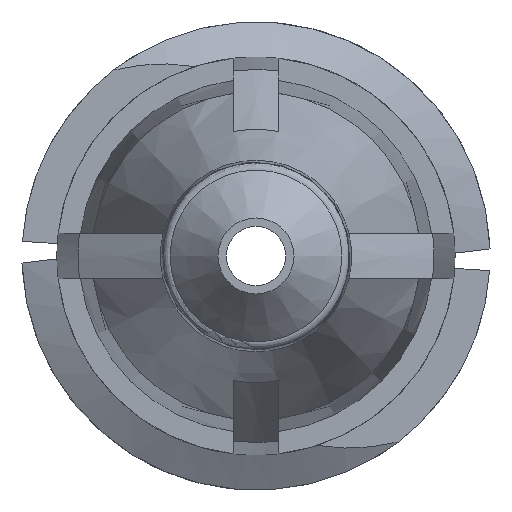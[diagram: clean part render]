
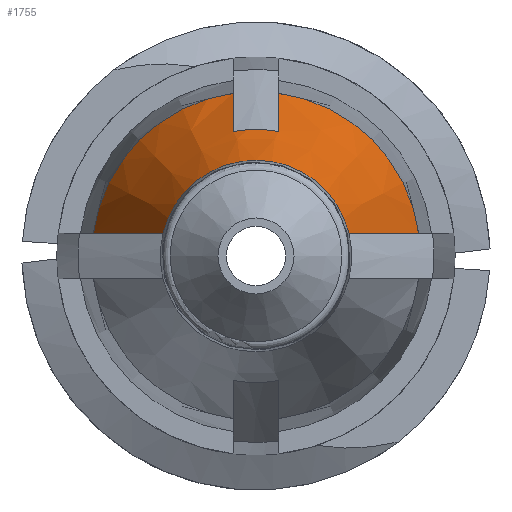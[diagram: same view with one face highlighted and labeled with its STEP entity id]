
A CAD part, front view. The second image highlights one B-rep face of the part: STEP entity #1755.
In plain terms, the highlighted conical face has half-angle 20 degrees and reference radius 2.745 mm.
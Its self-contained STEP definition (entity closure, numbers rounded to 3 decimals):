
#7 = ORIENTED_EDGE ( 'NONE', *, *, #854, .T. ) ;
#64 = DIRECTION ( 'NONE',  ( 0., 1., 0. ) ) ;
#65 = CARTESIAN_POINT ( 'NONE',  ( 1.554, -13.458, 0.381 ) ) ;
#76 = CARTESIAN_POINT ( 'NONE',  ( -1.947, -12.411, 0.381 ) ) ;
#136 = ORIENTED_EDGE ( 'NONE', *, *, #1142, .T. ) ;
#188 = CARTESIAN_POINT ( 'NONE',  ( 0., -10.312, 0. ) ) ;
#201 = CARTESIAN_POINT ( 'NONE',  ( 0., -10.312, 0. ) ) ;
#216 = ORIENTED_EDGE ( 'NONE', *, *, #1886, .T. ) ;
#258 = CARTESIAN_POINT ( 'NONE',  ( -0.381, -10.888, 2.507 ) ) ;
#266 = CARTESIAN_POINT ( 'NONE',  ( -1.554, -13.458, 0.381 ) ) ;
#281 = CARTESIAN_POINT ( 'NONE',  ( 0., -12.038, 0. ) ) ;
#282 = ORIENTED_EDGE ( 'NONE', *, *, #1956, .T. ) ;
#347 = B_SPLINE_CURVE_WITH_KNOTS ( 'NONE', 3,
 ( #1463, #1151, #662, #1635 ),
 .UNSPECIFIED., .F., .F.,
 ( 4, 4 ),
 ( 0.003, 0.007 ),
 .UNSPECIFIED. ) ;
#372 = DIRECTION ( 'NONE',  ( 1., 0., 0. ) ) ;
#383 = FACE_OUTER_BOUND ( 'NONE', #454, .T. ) ;
#408 = VERTEX_POINT ( 'NONE', #429 ) ;
#429 = CARTESIAN_POINT ( 'NONE',  ( -0.381, -12.038, 2.082 ) ) ;
#431 = CARTESIAN_POINT ( 'NONE',  ( -1.554, -13.458, 0.381 ) ) ;
#454 = EDGE_LOOP ( 'NONE', ( #1154, #1851, #726, #136, #282, #1520, #216, #7 ) ) ;
#459 = AXIS2_PLACEMENT_3D ( 'NONE', #1582, #607, #1611 ) ;
#470 = CIRCLE ( 'NONE', #1689, 2.745 ) ;
#545 = AXIS2_PLACEMENT_3D ( 'NONE', #281, #596, #1080 ) ;
#590 = CARTESIAN_POINT ( 'NONE',  ( -0.381, -10.312, 2.719 ) ) ;
#596 = DIRECTION ( 'NONE',  ( 0., -1., 0. ) ) ;
#607 = DIRECTION ( 'NONE',  ( 0., 1., 0. ) ) ;
#645 = VERTEX_POINT ( 'NONE', #1165 ) ;
#659 = CIRCLE ( 'NONE', #2051, 2.745 ) ;
#662 = CARTESIAN_POINT ( 'NONE',  ( 1.947, -12.411, 0.381 ) ) ;
#685 = DIRECTION ( 'NONE',  ( 1., 0., 0. ) ) ;
#686 = CARTESIAN_POINT ( 'NONE',  ( 0., -10.312, 0. ) ) ;
#704 = VERTEX_POINT ( 'NONE', #1821 ) ;
#726 = ORIENTED_EDGE ( 'NONE', *, *, #2080, .T. ) ;
#744 = CARTESIAN_POINT ( 'NONE',  ( -0.381, -11.463, 2.295 ) ) ;
#761 = CARTESIAN_POINT ( 'NONE',  ( -0.381, -12.038, 2.082 ) ) ;
#842 = DIRECTION ( 'NONE',  ( 0., 1., 0. ) ) ;
#854 = EDGE_CURVE ( 'NONE', #1041, #1487, #1004, .T. ) ;
#954 = B_SPLINE_CURVE_WITH_KNOTS ( 'NONE', 3,
 ( #1625, #1634, #76, #266 ),
 .UNSPECIFIED., .F., .F.,
 ( 4, 4 ),
 ( 0.003, 0.007 ),
 .UNSPECIFIED. ) ;
#981 = B_SPLINE_CURVE_WITH_KNOTS ( 'NONE', 3,
 ( #761, #744, #258, #590 ),
 .UNSPECIFIED., .F., .F.,
 ( 4, 4 ),
 ( 0.002, 0.004 ),
 .UNSPECIFIED. ) ;
#1004 = CIRCLE ( 'NONE', #459, 1.6 ) ;
#1041 = VERTEX_POINT ( 'NONE', #431 ) ;
#1080 = DIRECTION ( 'NONE',  ( -1., 0., 0. ) ) ;
#1142 = EDGE_CURVE ( 'NONE', #1174, #408, #1252, .T. ) ;
#1151 = CARTESIAN_POINT ( 'NONE',  ( 2.333, -11.362, 0.381 ) ) ;
#1154 = ORIENTED_EDGE ( 'NONE', *, *, #1322, .F. ) ;
#1165 = CARTESIAN_POINT ( 'NONE',  ( 2.719, -10.312, 0.381 ) ) ;
#1174 = VERTEX_POINT ( 'NONE', #1412 ) ;
#1209 = VERTEX_POINT ( 'NONE', #1253 ) ;
#1252 = CIRCLE ( 'NONE', #545, 2.117 ) ;
#1253 = CARTESIAN_POINT ( 'NONE',  ( -0.381, -10.312, 2.719 ) ) ;
#1306 = CONICAL_SURFACE ( 'NONE', #2017, 2.745, 0.349 ) ;
#1322 = EDGE_CURVE ( 'NONE', #645, #1487, #347, .T. ) ;
#1335 = DIRECTION ( 'NONE',  ( 0., 1., 0. ) ) ;
#1351 = VERTEX_POINT ( 'NONE', #1964 ) ;
#1384 = EDGE_CURVE ( 'NONE', #1351, #1209, #470, .T. ) ;
#1412 = CARTESIAN_POINT ( 'NONE',  ( 0.381, -12.038, 2.082 ) ) ;
#1433 = CARTESIAN_POINT ( 'NONE',  ( 0.381, -11.463, 2.295 ) ) ;
#1463 = CARTESIAN_POINT ( 'NONE',  ( 2.719, -10.312, 0.381 ) ) ;
#1487 = VERTEX_POINT ( 'NONE', #65 ) ;
#1496 = DIRECTION ( 'NONE',  ( 1., 0., 0. ) ) ;
#1520 = ORIENTED_EDGE ( 'NONE', *, *, #1384, .F. ) ;
#1582 = CARTESIAN_POINT ( 'NONE',  ( 0., -13.458, 0. ) ) ;
#1603 = CARTESIAN_POINT ( 'NONE',  ( 0.381, -10.312, 2.719 ) ) ;
#1611 = DIRECTION ( 'NONE',  ( 1., 0., 0. ) ) ;
#1625 = CARTESIAN_POINT ( 'NONE',  ( -2.719, -10.312, 0.381 ) ) ;
#1634 = CARTESIAN_POINT ( 'NONE',  ( -2.333, -11.362, 0.381 ) ) ;
#1635 = CARTESIAN_POINT ( 'NONE',  ( 1.554, -13.458, 0.381 ) ) ;
#1689 = AXIS2_PLACEMENT_3D ( 'NONE', #686, #842, #1496 ) ;
#1731 = B_SPLINE_CURVE_WITH_KNOTS ( 'NONE', 3,
 ( #1603, #1906, #1433, #1750 ),
 .UNSPECIFIED., .F., .F.,
 ( 4, 4 ),
 ( 0.003, 0.005 ),
 .UNSPECIFIED. ) ;
#1750 = CARTESIAN_POINT ( 'NONE',  ( 0.381, -12.038, 2.082 ) ) ;
#1755 = ADVANCED_FACE ( 'NONE', ( #383 ), #1306, .T. ) ;
#1821 = CARTESIAN_POINT ( 'NONE',  ( 0.381, -10.312, 2.719 ) ) ;
#1851 = ORIENTED_EDGE ( 'NONE', *, *, #1862, .F. ) ;
#1862 = EDGE_CURVE ( 'NONE', #704, #645, #659, .T. ) ;
#1886 = EDGE_CURVE ( 'NONE', #1351, #1041, #954, .T. ) ;
#1906 = CARTESIAN_POINT ( 'NONE',  ( 0.381, -10.888, 2.507 ) ) ;
#1956 = EDGE_CURVE ( 'NONE', #408, #1209, #981, .T. ) ;
#1964 = CARTESIAN_POINT ( 'NONE',  ( -2.719, -10.312, 0.381 ) ) ;
#2017 = AXIS2_PLACEMENT_3D ( 'NONE', #188, #1335, #372 ) ;
#2051 = AXIS2_PLACEMENT_3D ( 'NONE', #201, #64, #685 ) ;
#2080 = EDGE_CURVE ( 'NONE', #704, #1174, #1731, .T. ) ;
